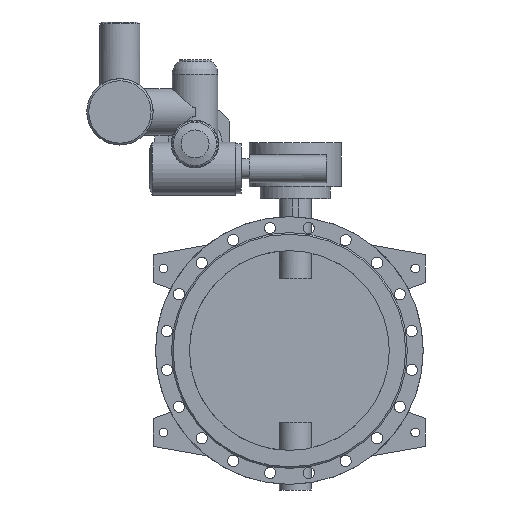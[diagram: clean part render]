
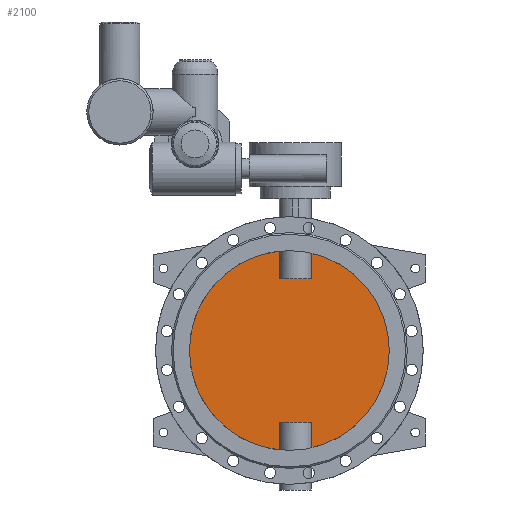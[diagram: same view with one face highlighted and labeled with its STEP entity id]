
A CAD part, front view. The second image highlights one B-rep face of the part: STEP entity #2100.
In plain terms, the highlighted planar face has unit normal (0, -1, 0).
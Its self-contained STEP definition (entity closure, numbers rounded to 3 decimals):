
#2100=ADVANCED_FACE('',(#4215),#4217,.F.);
#4215=FACE_BOUND('',#4216,.T.);
#4216=EDGE_LOOP('',(#5159,#5160,#5161,#5162,#5163,#5164,#5165,#5166));
#4217=PLANE('',#4218);
#4218=AXIS2_PLACEMENT_3D('',#4219,#4220,#4221);
#4219=CARTESIAN_POINT('',(0.,-5.,0.));
#4220=DIRECTION('',(0.,1.,0.));
#4221=DIRECTION('',(1.,0.,0.));
#5159=ORIENTED_EDGE('',*,*,#5632,.T.);
#5160=ORIENTED_EDGE('',*,*,#5637,.T.);
#5161=ORIENTED_EDGE('',*,*,#5638,.T.);
#5162=ORIENTED_EDGE('',*,*,#5639,.T.);
#5163=ORIENTED_EDGE('',*,*,#5634,.T.);
#5164=ORIENTED_EDGE('',*,*,#5640,.T.);
#5165=ORIENTED_EDGE('',*,*,#5641,.T.);
#5166=ORIENTED_EDGE('',*,*,#5642,.T.);
#5632=EDGE_CURVE('',#6461,#6462,#6463,.F.);
#5634=EDGE_CURVE('',#6466,#6464,#6467,.F.);
#5637=EDGE_CURVE('',#6462,#6471,#6472,.T.);
#5638=EDGE_CURVE('',#6471,#6473,#6474,.F.);
#5639=EDGE_CURVE('',#6473,#6466,#6475,.F.);
#5640=EDGE_CURVE('',#6464,#6476,#6477,.F.);
#5641=EDGE_CURVE('',#6476,#6478,#6479,.F.);
#5642=EDGE_CURVE('',#6478,#6461,#6480,.T.);
#6461=VERTEX_POINT('',#10660);
#6462=VERTEX_POINT('',#10661);
#6463=CIRCLE('',#10662,250.);
#6464=VERTEX_POINT('',#10666);
#6466=VERTEX_POINT('',#10756);
#6467=CIRCLE('',#10757,250.);
#6471=VERTEX_POINT('',#10871);
#6472=LINE('',#10872,#10873);
#6473=VERTEX_POINT('',#10875);
#6474=LINE('',#10876,#10877);
#6475=LINE('',#10879,#10880);
#6476=VERTEX_POINT('',#10882);
#6477=LINE('',#10883,#10884);
#6478=VERTEX_POINT('',#10886);
#6479=LINE('',#10887,#10888);
#6480=LINE('',#10890,#10891);
#10660=CARTESIAN_POINT('',(54.686,-5.,-243.946));
#10661=CARTESIAN_POINT('',(54.686,-5.,243.946));
#10662=AXIS2_PLACEMENT_3D('',#10663,#10664,#10665);
#10663=CARTESIAN_POINT('',(0.,-5.,0.));
#10664=DIRECTION('',(0.,1.,0.));
#10665=DIRECTION('',(0.219,0.,0.976));
#10666=CARTESIAN_POINT('',(-24.686,-5.,-248.778));
#10756=CARTESIAN_POINT('',(-24.686,-5.,248.778));
#10757=AXIS2_PLACEMENT_3D('',#10758,#10759,#10760);
#10758=CARTESIAN_POINT('',(0.,-5.,0.));
#10759=DIRECTION('',(0.,1.,0.));
#10760=DIRECTION('',(-0.099,0.,-0.995));
#10871=CARTESIAN_POINT('',(54.686,-5.,180.));
#10872=CARTESIAN_POINT('',(54.686,-5.,243.946));
#10873=VECTOR('',#10874,1.);
#10874=DIRECTION('',(0.,0.,-1.));
#10875=CARTESIAN_POINT('',(-24.686,-5.,180.));
#10876=CARTESIAN_POINT('',(-24.686,-5.,180.));
#10877=VECTOR('',#10878,1.);
#10878=DIRECTION('',(1.,0.,0.));
#10879=CARTESIAN_POINT('',(-24.686,-5.,248.778));
#10880=VECTOR('',#10881,1.);
#10881=DIRECTION('',(0.,0.,-1.));
#10882=CARTESIAN_POINT('',(-24.686,-5.,-180.));
#10883=CARTESIAN_POINT('',(-24.686,-5.,-180.));
#10884=VECTOR('',#10885,1.);
#10885=DIRECTION('',(0.,0.,-1.));
#10886=CARTESIAN_POINT('',(54.686,-5.,-180.));
#10887=CARTESIAN_POINT('',(54.686,-5.,-180.));
#10888=VECTOR('',#10889,1.);
#10889=DIRECTION('',(-1.,0.,0.));
#10890=CARTESIAN_POINT('',(54.686,-5.,-180.));
#10891=VECTOR('',#10892,1.);
#10892=DIRECTION('',(0.,0.,-1.));
